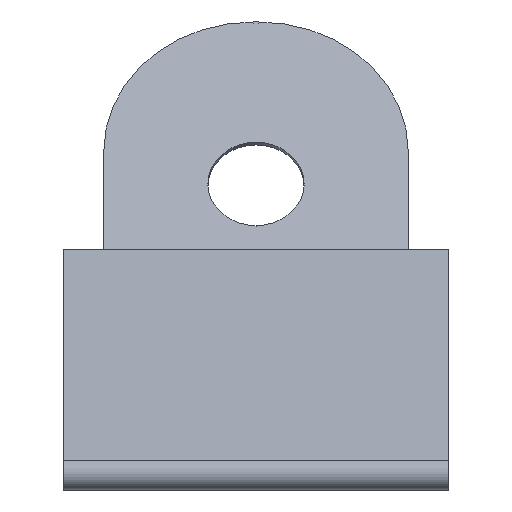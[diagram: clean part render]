
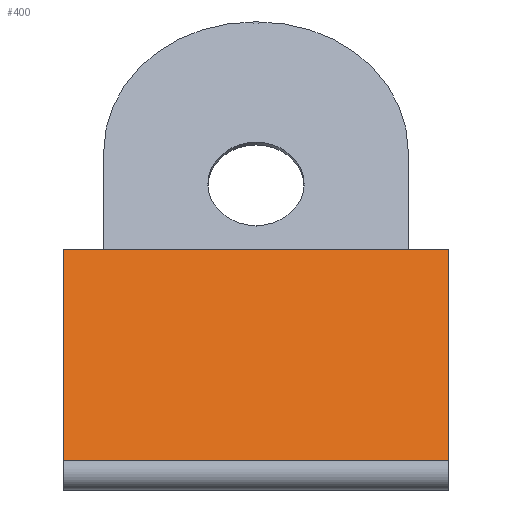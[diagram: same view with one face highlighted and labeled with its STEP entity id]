
A CAD part, front view. The second image highlights one B-rep face of the part: STEP entity #400.
In plain terms, the highlighted planar face has unit normal (0, -0.541, 0.841).
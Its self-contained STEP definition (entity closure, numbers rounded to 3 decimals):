
#6 = EDGE_CURVE ( 'Arista16', #631, #87, #707, .T. ) ;
#7 = EDGE_CURVE ( 'Arista17', #49, #87, #685, .T. ) ;
#23 = CARTESIAN_POINT ( 'NONE',  ( -3.6, -8.107, 4.384 ) ) ;
#49 = VERTEX_POINT ( 'NONE', #415 ) ;
#65 = DIRECTION ( 'NONE',  ( 0., -0.841, -0.541 ) ) ;
#68 = ORIENTED_EDGE ( 'NONE', *, *, #7, .F. ) ;
#71 = ORIENTED_EDGE ( 'NONE', *, *, #133, .T. ) ;
#72 = DIRECTION ( 'NONE',  ( 1., 0., 0. ) ) ;
#87 = VERTEX_POINT ( 'NONE', #413 ) ;
#133 = EDGE_CURVE ( 'Arista5', #540, #631, #594, .T. ) ;
#141 = DIRECTION ( 'NONE',  ( 0., -0.541, 0.841 ) ) ;
#145 = CARTESIAN_POINT ( 'NONE',  ( -3.6, -14.216, 0.452 ) ) ;
#228 = CARTESIAN_POINT ( 'NONE',  ( -3.6, -14.216, 0.452 ) ) ;
#232 = CARTESIAN_POINT ( 'NONE',  ( 3.6, -8.107, 4.384 ) ) ;
#266 = AXIS2_PLACEMENT_3D ( 'NONE', #23, #141, #535 ) ;
#299 = CARTESIAN_POINT ( 'NONE',  ( -3.6, -8.083, 4.4 ) ) ;
#400 = ADVANCED_FACE ( 'Cara6', ( #681 ), #477, .T. ) ;
#413 = CARTESIAN_POINT ( 'NONE',  ( 3.6, -14.216, 0.452 ) ) ;
#415 = CARTESIAN_POINT ( 'NONE',  ( 3.6, -8.083, 4.4 ) ) ;
#477 = PLANE ( 'NONE',  #266 ) ;
#511 = ORIENTED_EDGE ( 'NONE', *, *, #741, .F. ) ;
#519 = EDGE_LOOP ( 'NONE', ( #729, #68, #511, #71 ) ) ;
#535 = DIRECTION ( 'NONE',  ( 0., -0.841, -0.541 ) ) ;
#540 = VERTEX_POINT ( 'NONE', #720 ) ;
#543 = DIRECTION ( 'NONE',  ( 0., -0.841, -0.541 ) ) ;
#566 = VECTOR ( 'NONE', #543, 1000. ) ;
#594 = LINE ( 'NONE', #600, #566 ) ;
#600 = CARTESIAN_POINT ( 'NONE',  ( -3.6, -8.107, 4.384 ) ) ;
#601 = VECTOR ( 'NONE', #65, 1000. ) ;
#622 = VECTOR ( 'NONE', #72, 1000. ) ;
#631 = VERTEX_POINT ( 'NONE', #145 ) ;
#638 = VECTOR ( 'NONE', #721, 1000. ) ;
#674 = LINE ( 'NONE', #299, #638 ) ;
#681 = FACE_OUTER_BOUND ( 'NONE', #519, .T. ) ;
#685 = LINE ( 'NONE', #232, #601 ) ;
#707 = LINE ( 'NONE', #228, #622 ) ;
#720 = CARTESIAN_POINT ( 'NONE',  ( -3.6, -8.083, 4.4 ) ) ;
#721 = DIRECTION ( 'NONE',  ( 1., 0., 0. ) ) ;
#729 = ORIENTED_EDGE ( 'NONE', *, *, #6, .T. ) ;
#741 = EDGE_CURVE ( 'Arista8', #540, #49, #674, .T. ) ;
